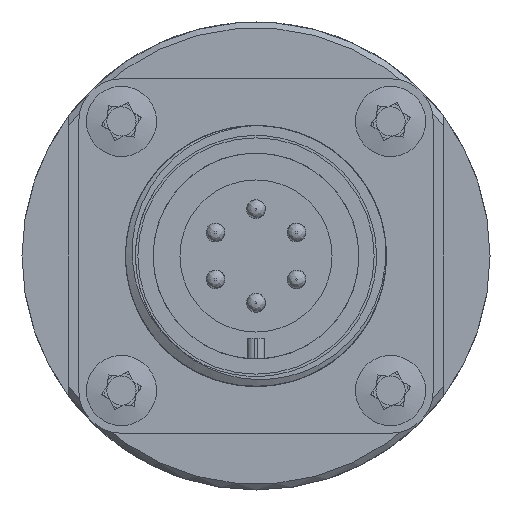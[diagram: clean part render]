
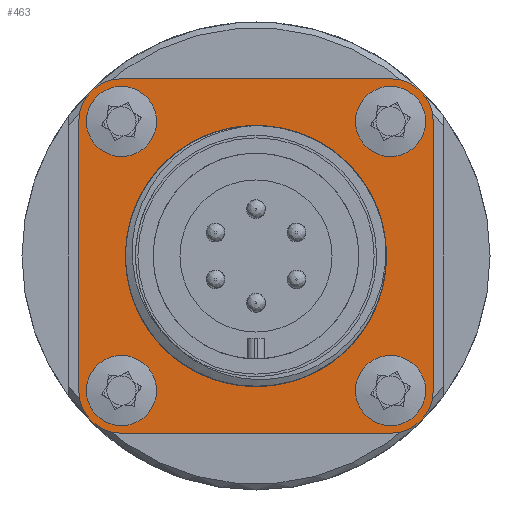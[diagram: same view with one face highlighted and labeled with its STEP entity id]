
A CAD part, front view. The second image highlights one B-rep face of the part: STEP entity #463.
In plain terms, the highlighted planar face has unit normal (0, -1, 0) as drawn and (-1, 0, 0) by its records, which use the part's own axes.
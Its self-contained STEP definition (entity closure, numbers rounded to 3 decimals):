
#463 = ADVANCED_FACE( '', ( #965, #966, #967, #968, #969, #970 ), #971, .F. );
#965 = FACE_BOUND( '', #2990, .T. );
#966 = FACE_BOUND( '', #2991, .T. );
#967 = FACE_OUTER_BOUND( '', #2992, .T. );
#968 = FACE_BOUND( '', #2993, .T. );
#969 = FACE_BOUND( '', #2994, .T. );
#970 = FACE_BOUND( '', #2995, .T. );
#971 = PLANE( '', #2996 );
#2990 = EDGE_LOOP( '', ( #6982 ) );
#2991 = EDGE_LOOP( '', ( #6983 ) );
#2992 = EDGE_LOOP( '', ( #6984, #6985, #6986, #6987, #6988, #6989, #6990, #6991 ) );
#2993 = EDGE_LOOP( '', ( #6992 ) );
#2994 = EDGE_LOOP( '', ( #6993 ) );
#2995 = EDGE_LOOP( '', ( #6994 ) );
#2996 = AXIS2_PLACEMENT_3D( '', #6995, #6996, #6997 );
#6982 = ORIENTED_EDGE( '', *, *, #8231, .T. );
#6983 = ORIENTED_EDGE( '', *, *, #8232, .T. );
#6984 = ORIENTED_EDGE( '', *, *, #8096, .F. );
#6985 = ORIENTED_EDGE( '', *, *, #8118, .F. );
#6986 = ORIENTED_EDGE( '', *, *, #8233, .F. );
#6987 = ORIENTED_EDGE( '', *, *, #8234, .F. );
#6988 = ORIENTED_EDGE( '', *, *, #8235, .F. );
#6989 = ORIENTED_EDGE( '', *, *, #8236, .F. );
#6990 = ORIENTED_EDGE( '', *, *, #8237, .F. );
#6991 = ORIENTED_EDGE( '', *, *, #8148, .F. );
#6992 = ORIENTED_EDGE( '', *, *, #8238, .T. );
#6993 = ORIENTED_EDGE( '', *, *, #8091, .T. );
#6994 = ORIENTED_EDGE( '', *, *, #8144, .T. );
#6995 = CARTESIAN_POINT( '', ( -2.4, -11.5, 11.5 ) );
#6996 = DIRECTION( '', ( 1., 0., 0. ) );
#6997 = DIRECTION( '', ( 0., 1., 0. ) );
#8091 = EDGE_CURVE( '', #8609, #8609, #8610, .T. );
#8096 = EDGE_CURVE( '', #8617, #8619, #8620, .T. );
#8118 = EDGE_CURVE( '', #8654, #8617, #8656, .T. );
#8144 = EDGE_CURVE( '', #8701, #8701, #8702, .T. );
#8148 = EDGE_CURVE( '', #8619, #8708, #8709, .T. );
#8231 = EDGE_CURVE( '', #8845, #8845, #8846, .T. );
#8232 = EDGE_CURVE( '', #8847, #8847, #8848, .T. );
#8233 = EDGE_CURVE( '', #8849, #8654, #8850, .T. );
#8234 = EDGE_CURVE( '', #8851, #8849, #8852, .T. );
#8235 = EDGE_CURVE( '', #8853, #8851, #8854, .T. );
#8236 = EDGE_CURVE( '', #8855, #8853, #8856, .T. );
#8237 = EDGE_CURVE( '', #8708, #8855, #8857, .T. );
#8238 = EDGE_CURVE( '', #8858, #8858, #8859, .T. );
#8609 = VERTEX_POINT( '', #9370 );
#8610 = CIRCLE( '', #9371, 1.5 );
#8617 = VERTEX_POINT( '', #9378 );
#8619 = VERTEX_POINT( '', #9381 );
#8620 = CIRCLE( '', #9382, 3.65 );
#8654 = VERTEX_POINT( '', #9420 );
#8656 = LINE( '', #9423, #9424 );
#8701 = VERTEX_POINT( '', #9483 );
#8702 = CIRCLE( '', #9484, 1.5 );
#8708 = VERTEX_POINT( '', #9491 );
#8709 = LINE( '', #9492, #9493 );
#8845 = VERTEX_POINT( '', #10545 );
#8846 = CIRCLE( '', #10546, 11.15 );
#8847 = VERTEX_POINT( '', #10547 );
#8848 = CIRCLE( '', #10548, 1.5 );
#8849 = VERTEX_POINT( '', #10549 );
#8850 = CIRCLE( '', #10550, 3.65 );
#8851 = VERTEX_POINT( '', #10551 );
#8852 = LINE( '', #10552, #10553 );
#8853 = VERTEX_POINT( '', #10554 );
#8854 = CIRCLE( '', #10555, 3.65 );
#8855 = VERTEX_POINT( '', #10556 );
#8856 = LINE( '', #10557, #10558 );
#8857 = CIRCLE( '', #10559, 3.65 );
#8858 = VERTEX_POINT( '', #10560 );
#8859 = CIRCLE( '', #10561, 1.5 );
#9370 = CARTESIAN_POINT( '', ( -2.4, 13., -11.5 ) );
#9371 = AXIS2_PLACEMENT_3D( '', #13229, #13230, #13231 );
#9378 = CARTESIAN_POINT( '', ( -2.4, -11.5, 15.15 ) );
#9381 = CARTESIAN_POINT( '', ( -2.4, -15.15, 11.5 ) );
#9382 = AXIS2_PLACEMENT_3D( '', #13239, #13240, #13241 );
#9420 = CARTESIAN_POINT( '', ( -2.4, 11.5, 15.15 ) );
#9423 = CARTESIAN_POINT( '', ( -2.4, -11.5, 15.15 ) );
#9424 = VECTOR( '', #13277, 1000. );
#9483 = CARTESIAN_POINT( '', ( -2.4, -10., -11.5 ) );
#9484 = AXIS2_PLACEMENT_3D( '', #13307, #13308, #13309 );
#9491 = CARTESIAN_POINT( '', ( -2.4, -15.15, -11.5 ) );
#9492 = CARTESIAN_POINT( '', ( -2.4, -15.15, 11.5 ) );
#9493 = VECTOR( '', #13314, 1000. );
#10545 = CARTESIAN_POINT( '', ( -2.4, 11.15, 0. ) );
#10546 = AXIS2_PLACEMENT_3D( '', #13416, #13417, #13418 );
#10547 = CARTESIAN_POINT( '', ( -2.4, -10., 11.5 ) );
#10548 = AXIS2_PLACEMENT_3D( '', #13419, #13420, #13421 );
#10549 = CARTESIAN_POINT( '', ( -2.4, 15.15, 11.5 ) );
#10550 = AXIS2_PLACEMENT_3D( '', #13422, #13423, #13424 );
#10551 = CARTESIAN_POINT( '', ( -2.4, 15.15, -11.5 ) );
#10552 = CARTESIAN_POINT( '', ( -2.4, 15.15, 11.5 ) );
#10553 = VECTOR( '', #13425, 1000. );
#10554 = CARTESIAN_POINT( '', ( -2.4, 11.5, -15.15 ) );
#10555 = AXIS2_PLACEMENT_3D( '', #13426, #13427, #13428 );
#10556 = CARTESIAN_POINT( '', ( -2.4, -11.5, -15.15 ) );
#10557 = CARTESIAN_POINT( '', ( -2.4, -11.5, -15.15 ) );
#10558 = VECTOR( '', #13429, 1000. );
#10559 = AXIS2_PLACEMENT_3D( '', #13430, #13431, #13432 );
#10560 = CARTESIAN_POINT( '', ( -2.4, 13., 11.5 ) );
#10561 = AXIS2_PLACEMENT_3D( '', #13433, #13434, #13435 );
#13229 = CARTESIAN_POINT( '', ( -2.4, 11.5, -11.5 ) );
#13230 = DIRECTION( '', ( 1., 0., 0. ) );
#13231 = DIRECTION( '', ( 0., 1., 0. ) );
#13239 = CARTESIAN_POINT( '', ( -2.4, -11.5, 11.5 ) );
#13240 = DIRECTION( '', ( 1., 0., 0. ) );
#13241 = DIRECTION( '', ( 0., 1., 0. ) );
#13277 = DIRECTION( '', ( 0., -1., 0. ) );
#13307 = CARTESIAN_POINT( '', ( -2.4, -11.5, -11.5 ) );
#13308 = DIRECTION( '', ( 1., 0., 0. ) );
#13309 = DIRECTION( '', ( 0., 1., 0. ) );
#13314 = DIRECTION( '', ( 0., 0., -1. ) );
#13416 = CARTESIAN_POINT( '', ( -2.4, 0., 0. ) );
#13417 = DIRECTION( '', ( 1., 0., 0. ) );
#13418 = DIRECTION( '', ( 0., 1., 0. ) );
#13419 = CARTESIAN_POINT( '', ( -2.4, -11.5, 11.5 ) );
#13420 = DIRECTION( '', ( 1., 0., 0. ) );
#13421 = DIRECTION( '', ( 0., 1., 0. ) );
#13422 = CARTESIAN_POINT( '', ( -2.4, 11.5, 11.5 ) );
#13423 = DIRECTION( '', ( 1., 0., 0. ) );
#13424 = DIRECTION( '', ( 0., 1., 0. ) );
#13425 = DIRECTION( '', ( 0., 0., 1. ) );
#13426 = CARTESIAN_POINT( '', ( -2.4, 11.5, -11.5 ) );
#13427 = DIRECTION( '', ( 1., 0., 0. ) );
#13428 = DIRECTION( '', ( 0., -1., 0. ) );
#13429 = DIRECTION( '', ( 0., 1., 0. ) );
#13430 = CARTESIAN_POINT( '', ( -2.4, -11.5, -11.5 ) );
#13431 = DIRECTION( '', ( 1., 0., 0. ) );
#13432 = DIRECTION( '', ( 0., 1., 0. ) );
#13433 = CARTESIAN_POINT( '', ( -2.4, 11.5, 11.5 ) );
#13434 = DIRECTION( '', ( 1., 0., 0. ) );
#13435 = DIRECTION( '', ( 0., 1., 0. ) );
